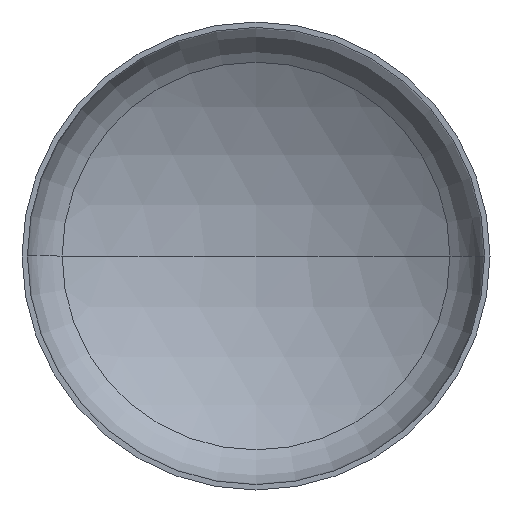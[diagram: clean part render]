
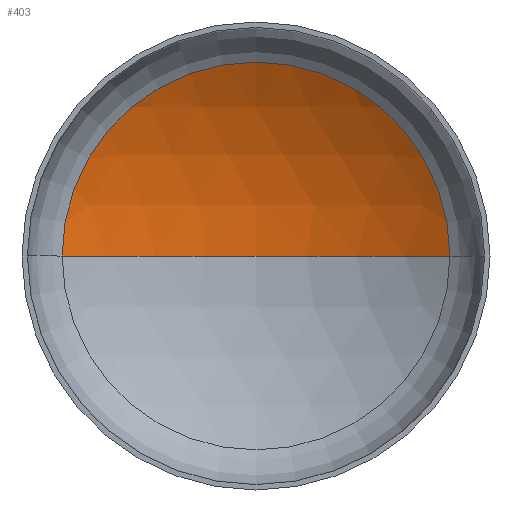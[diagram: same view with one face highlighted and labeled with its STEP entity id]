
A CAD part, front view. The second image highlights one B-rep face of the part: STEP entity #403.
In plain terms, the highlighted spherical face has radius 1040 mm.
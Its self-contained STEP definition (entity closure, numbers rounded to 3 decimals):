
#16 = DIRECTION ( 'NONE',  ( -1., 0., 0. ) ) ;
#17 = CIRCLE ( 'NONE', #36, 1040. ) ;
#30 = SPHERICAL_SURFACE ( 'NONE', #369, 1040. ) ;
#35 = AXIS2_PLACEMENT_3D ( 'NONE', #409, #268, #384 ) ;
#36 = AXIS2_PLACEMENT_3D ( 'NONE', #410, #120, #16 ) ;
#39 = AXIS2_PLACEMENT_3D ( 'NONE', #226, #265, #396 ) ;
#73 = EDGE_CURVE ( 'NONE', #135, #335, #139, .T. ) ;
#74 = EDGE_CURVE ( 'NONE', #107, #135, #17, .T. ) ;
#75 = EDGE_CURVE ( 'NONE', #107, #335, #301, .T. ) ;
#102 = DIRECTION ( 'NONE',  ( 0., 0., -1. ) ) ;
#107 = VERTEX_POINT ( 'NONE', #247 ) ;
#112 = EDGE_LOOP ( 'NONE', ( #204, #182, #113 ) ) ;
#113 = ORIENTED_EDGE ( 'NONE', *, *, #73, .T. ) ;
#120 = DIRECTION ( 'NONE',  ( 0., 0., -1. ) ) ;
#126 = CARTESIAN_POINT ( 'NONE',  ( 0., -673.592, 0. ) ) ;
#135 = VERTEX_POINT ( 'NONE', #401 ) ;
#139 = CIRCLE ( 'NONE', #39, 538.571 ) ;
#144 = FACE_OUTER_BOUND ( 'NONE', #112, .T. ) ;
#145 = DIRECTION ( 'NONE',  ( -1., 0., 0. ) ) ;
#182 = ORIENTED_EDGE ( 'NONE', *, *, #74, .T. ) ;
#204 = ORIENTED_EDGE ( 'NONE', *, *, #75, .F. ) ;
#226 = CARTESIAN_POINT ( 'NONE',  ( 0., 216.093, 0. ) ) ;
#247 = CARTESIAN_POINT ( 'NONE',  ( 0., 366.408, 0. ) ) ;
#265 = DIRECTION ( 'NONE',  ( 0., -1., 0. ) ) ;
#268 = DIRECTION ( 'NONE',  ( 0., 0., 1. ) ) ;
#278 = CARTESIAN_POINT ( 'NONE',  ( -538.571, 216.093, 0. ) ) ;
#301 = CIRCLE ( 'NONE', #35, 1040. ) ;
#335 = VERTEX_POINT ( 'NONE', #278 ) ;
#369 = AXIS2_PLACEMENT_3D ( 'NONE', #126, #102, #145 ) ;
#384 = DIRECTION ( 'NONE',  ( 1., 0., 0. ) ) ;
#396 = DIRECTION ( 'NONE',  ( 1., 0., 0. ) ) ;
#401 = CARTESIAN_POINT ( 'NONE',  ( 538.571, 216.093, 0. ) ) ;
#403 = ADVANCED_FACE ( 'NONE', ( #144 ), #30, .F. ) ;
#409 = CARTESIAN_POINT ( 'NONE',  ( 0., -673.592, 0. ) ) ;
#410 = CARTESIAN_POINT ( 'NONE',  ( 0., -673.592, 0. ) ) ;
